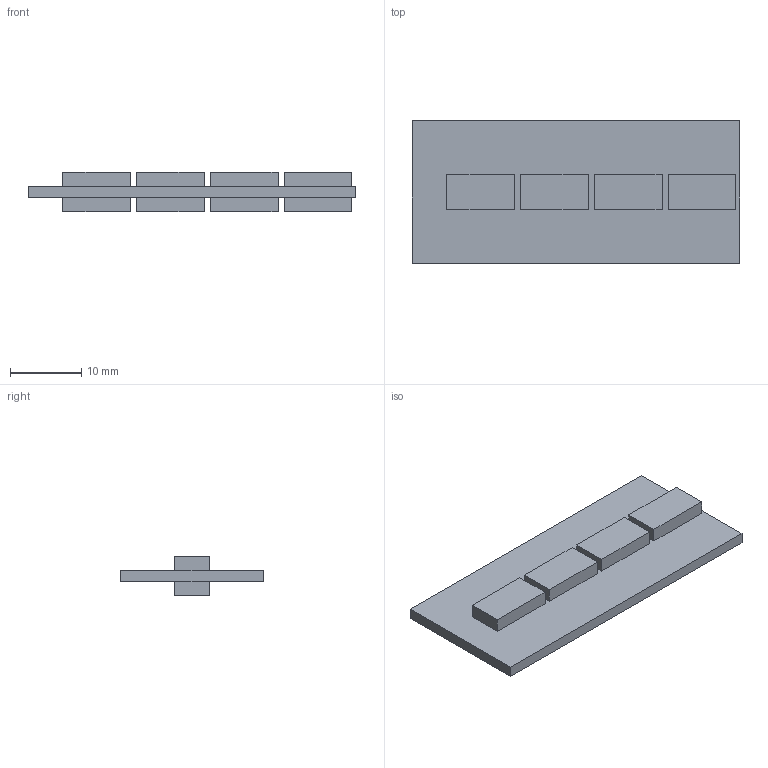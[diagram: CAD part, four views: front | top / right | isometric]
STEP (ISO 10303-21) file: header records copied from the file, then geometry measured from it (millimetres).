
FILE_DESCRIPTION(('Open CASCADE Model'),'2;1');
FILE_NAME('Open CASCADE Shape Model','2025-09-01T22:46:13',('Author'),( 'Open CASCADE'),'Open CASCADE STEP processor 7.5','Open CASCADE 7.5' ,'Unknown');
FILE_SCHEMA(('AUTOMOTIVE_DESIGN { 1 0 10303 214 1 1 1 1 }'));
Length unit declared in the file: millimetre
Products named in the file (13): PCB; Board; Open CASCADE STEP translator 7.5 1.1.1; F8; 6831740432; Extruded; F7; F6; F5; F4; F3; F2; F1
Assembly tree (19 placements, depth 4):
  PCB
    Board
      Open CASCADE STEP translator 7.5 1.1.1
    F8
      6831740432
        Extruded
    F7
      6831740432
        Extruded
    F6
      6831740432
        Extruded
    F5
      6831740432
        Extruded
    F4
      6831740432
        Extruded
    F3
      6831740432
        Extruded
    F2
      6831740432
        Extruded
    F1
      6831740432
        Extruded
Bounding box: 46 x 20 x 5.59 mm (x, y, z)
Volume: 2223.1 mm3; surface area: 3273.9 mm2
Topology: 9 solids, 9 shells, 54 faces, 108 edges, 72 vertices
Faces by surface type: plane 54
Entity records: 610 total; most frequent: DIRECTION 88, CARTESIAN_POINT 72, ORIENTED_EDGE 48, PRODUCT_DEFINITION_SHAPE 32, AXIS2_PLACEMENT_3D 32, EDGE_CURVE 24, LINE 24, VECTOR 24
